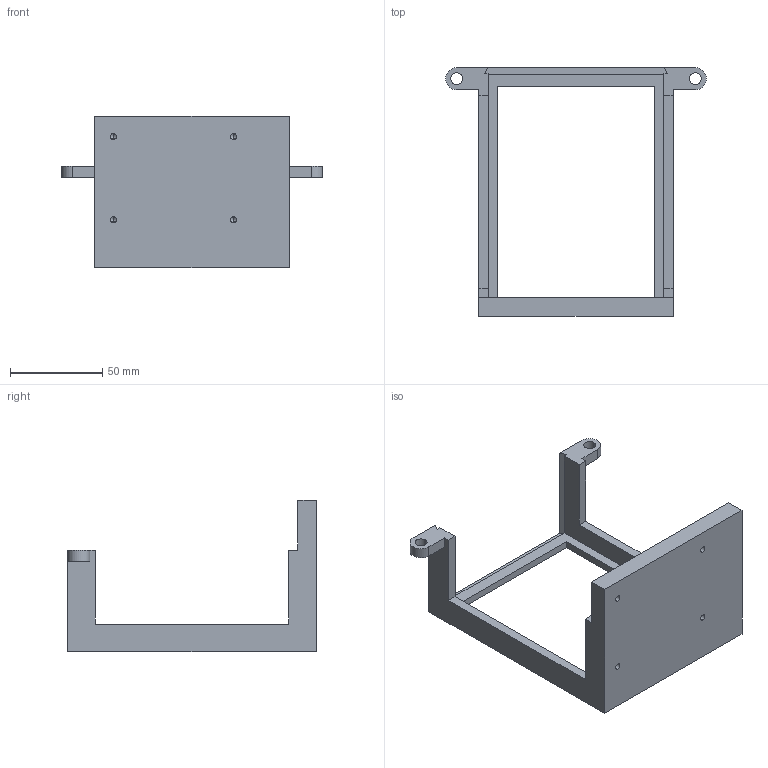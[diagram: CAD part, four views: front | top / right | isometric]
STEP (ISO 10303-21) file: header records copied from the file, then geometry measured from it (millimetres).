
FILE_DESCRIPTION (( 'STEP AP214' ), '1' );
FILE_NAME ('Back Plate.STEP', '2024-05-28T04:03:05', ( '' ), ( '' ), 'SwSTEP 2.0', 'SolidWorks 2022', '' );
FILE_SCHEMA (( 'AUTOMOTIVE_DESIGN' ));
Length unit declared in the file: centimetre
Products named in the file (1): Back Plate
Bounding box: 141 x 134.5 x 82 mm (x, y, z)
Volume: 121921.4 mm3; surface area: 41531.9 mm2
Topology: 1 solids, 1 shells, 54 faces, 151 edges, 94 vertices
Faces by surface type: plane 31, cylinder 15, cone 8
Entity records: 1799 total; most frequent: CARTESIAN_POINT 292, ORIENTED_EDGE 286, DIRECTION 283, EDGE_CURVE 143, VECTOR 113, LINE 113, VERTEX_POINT 94, AXIS2_PLACEMENT_3D 85
